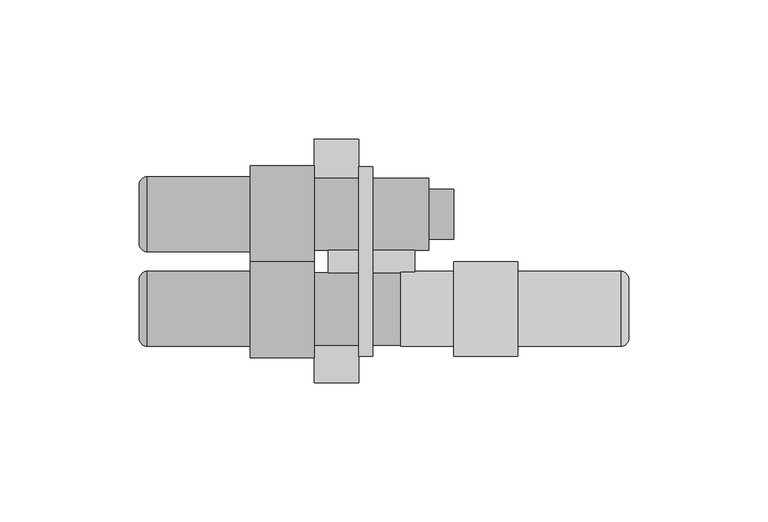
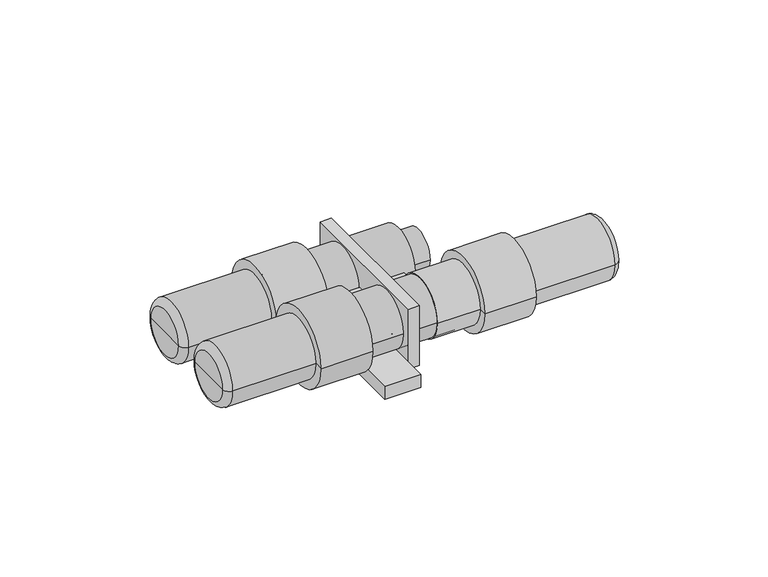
"""IFC4 building model written with IfcOpenShell, lengths in millimetres: cable carrier fitting geometry, DEVI EasyConnect EC-2 : DEVI EasyConnect EC-2_98300875."""

from ifc_helpers import new_model, si_unit, point, frame, frame_2d, origin, origin_2d, place, context, project, spatial, polyline, circle_curve, ellipse_curve, trimmed, segment, composite_curve, outline, extrude, source, transform, mapped, element, save
from ifc_brep_helpers import plane_surface, cylinder_surface, revolved_surface, advanced_brep


def cable_carrier_fitting_9c28b088(model_context):
    return source(origin(), model_context, "Body", "SolidModel", [
        extrude(outline(composite_curve([segment(trimmed(circle_curve(origin_2d(), 9.0), [point((9.0, 0.0))], [point((-9.0, 0.0))], False, "CARTESIAN"), True, "CONTINUOUS"), segment(trimmed(circle_curve(origin_2d(), 9.0), [point((-9.0, 0.0))], [point((9.0, 0.0))], False, "CARTESIAN"), True, "CONTINUOUS")], self_intersect=False)), frame((104.0, 0.0, 0.0), z_axis=(1.0, 0.0, 0.0), x_axis=(0.0, 1.0, 0.0)), (0.0, 0.0, 1.0), 9.0),
        advanced_brep(
        [(63.0, -13.0, -0.0348156), (63.0, 13.0, -0.0348156), (63.0, 7.2677823, -10.8134677), (63.0, 27.0, -10.8134677), (63.0, 27.0, -16.9651844), (63.0, 0.0, -16.9651844), (63.0, 0.0, -13.0348156), (104.0, 13.0, -0.0348156), (104.0, -13.0, -0.0348156), (79.0, 0.0, -13.0348156), (79.0, 7.2677823, -10.8134677), (79.0, 27.0, -10.8134677), (79.0, 27.0, -16.9651844), (79.0, 0.0, -16.9651844)],
        [
            (0, 1, circle_curve(frame((63.0, 0.0, -0.0348156), z_axis=(-1.0, 0.0, 0.0), x_axis=(0.0, -1.0, 0.0)), 13.0)),
            (1, 2, circle_curve(frame((63.0, 0.0, -0.0348156), z_axis=(-1.0, 0.0, 0.0), x_axis=(0.0, -1.0, 0.0)), 13.0)),
            (2, 3),
            (3, 4),
            (4, 5),
            (5, 6),
            (6, 0, circle_curve(frame((63.0, 0.0, -0.0348156), z_axis=(-1.0, 0.0, 0.0), x_axis=(0.0, -1.0, 0.0)), 13.0)),
            (7, 8, circle_curve(frame((104.0, 0.0, -0.0348156), z_axis=(1.0, 0.0, 0.0), x_axis=(0.0, -1.0, 0.0)), 13.0)),
            (8, 7, circle_curve(frame((104.0, 0.0, -0.0348156), z_axis=(1.0, 0.0, 0.0), x_axis=(0.0, -1.0, 0.0)), 13.0)),
            (8, 0),
            (6, 9),
            (9, 10, circle_curve(frame((79.0, 0.0, -0.0348156), z_axis=(1.0, 0.0, 0.0), x_axis=(0.0, -1.0, 0.0)), 13.0)),
            (10, 2),
            (1, 7),
            (11, 3),
            (10, 11),
            (4, 12),
            (12, 13),
            (13, 5),
            (13, 9),
            (12, 11),
        ],
        [
            plane_surface(frame((63.0, -13.0, -0.0348156), z_axis=(-1.0, 0.0, 0.0), x_axis=(0.0, 0.0, 1.0))),
            plane_surface(frame((104.0, -13.0, -0.0348156), z_axis=(1.0, 0.0, 0.0), x_axis=(0.0, 0.0, -1.0))),
            cylinder_surface(frame((104.0, 0.0, -0.0348156), z_axis=(-1.0, 0.0, 0.0), x_axis=(0.0, -1.0, 0.0)), 13.0),
            plane_surface(frame((63.0, -287.6301247, -10.8134677), z_axis=(0.0, 0.0, 1.0), x_axis=(0.0, -1.0, 0.0))),
            plane_surface(frame((63.0, -287.6301247, -16.9651844), z_axis=(0.0, 0.0, -1.0), x_axis=(0.0, 1.0, 0.0))),
            plane_surface(frame((63.0, 0.0, -10.8134677), z_axis=(0.0, -1.0, 0.0), x_axis=(0.0, 0.0, -1.0))),
            plane_surface(frame((79.0, 0.0, -10.8134677), z_axis=(1.0, 0.0, 0.0), x_axis=(0.0, 0.0, -1.0))),
            plane_surface(frame((79.0, 27.0, -10.8134677), z_axis=(0.0, 1.0, 0.0), x_axis=(0.0, 0.0, -1.0))),
        ],
        [
            (0, [[1, 2, 3, 4, 5, 6, 7]]),
            (1, [[8, 9]]),
            (2, [[-9, 10, -7, 11, 12, 13, -2, 14]]),
            (2, [[-1, -10, -8, -14]]),
            (3, [[15, -3, -13, 16]]),
            (4, [[17, 18, 19, -5]]),
            (5, [[-19, 20, -11, -6]]),
            (6, [[-18, 21, -16, -12, -20]]),
            (7, [[-15, -21, -17, -4]]),
        ],
    ),
        advanced_brep(
        [(63.0, -47.0, -0.0348156), (63.0, -21.0, -0.0348156), (63.0, -34.0, -13.0348156), (63.0, -34.0, -16.9651844), (63.0, -60.5, -16.9651844), (63.0, -60.5, -10.8134677), (63.0, -41.2677823, -10.8134677), (104.0, -21.0, -0.0348156), (104.0, -47.0, -0.0348156), (79.0, -41.2677823, -10.8134677), (79.0, -34.0, -13.0348156), (79.0, -60.5, -10.8134677), (79.0, -34.0, -16.9651844), (79.0, -60.5, -16.9651844)],
        [
            (0, 1, circle_curve(frame((63.0, -34.0, -0.0348156), z_axis=(-1.0, 0.0, 0.0), x_axis=(0.0, -1.0, 0.0)), 13.0)),
            (1, 2, circle_curve(frame((63.0, -34.0, -0.0348156), z_axis=(-1.0, 0.0, 0.0), x_axis=(0.0, -1.0, 0.0)), 13.0)),
            (2, 3),
            (3, 4),
            (4, 5),
            (5, 6),
            (6, 0, circle_curve(frame((63.0, -34.0, -0.0348156), z_axis=(-1.0, 0.0, 0.0), x_axis=(0.0, -1.0, 0.0)), 13.0)),
            (7, 8, circle_curve(frame((104.0, -34.0, -0.0348156), z_axis=(1.0, 0.0, 0.0), x_axis=(0.0, -1.0, 0.0)), 13.0)),
            (8, 7, circle_curve(frame((104.0, -34.0, -0.0348156), z_axis=(1.0, 0.0, 0.0), x_axis=(0.0, -1.0, 0.0)), 13.0)),
            (8, 0),
            (6, 9),
            (9, 10, circle_curve(frame((79.0, -34.0, -0.0348156), z_axis=(1.0, 0.0, 0.0), x_axis=(0.0, -1.0, 0.0)), 13.0)),
            (10, 2),
            (1, 7),
            (5, 11),
            (11, 9),
            (3, 12),
            (12, 13),
            (13, 4),
            (13, 11),
            (12, 10),
        ],
        [
            plane_surface(frame((63.0, -13.0, -0.0348156), z_axis=(-1.0, 0.0, 0.0), x_axis=(0.0, 0.0, 1.0))),
            plane_surface(frame((104.0, -13.0, -0.0348156), z_axis=(1.0, 0.0, 0.0), x_axis=(0.0, 0.0, -1.0))),
            cylinder_surface(frame((119.0, -34.0, -0.0348156), z_axis=(-1.0, 0.0, 0.0), x_axis=(0.0, -1.0, 0.0)), 13.0),
            plane_surface(frame((63.0, -287.6301247, -10.8134677), z_axis=(0.0, 0.0, 1.0), x_axis=(0.0, -1.0, 0.0))),
            plane_surface(frame((63.0, -287.6301247, -16.9651844), z_axis=(0.0, 0.0, -1.0), x_axis=(0.0, 1.0, 0.0))),
            plane_surface(frame((63.0, -60.5, -10.8134677), z_axis=(0.0, -1.0, 0.0), x_axis=(0.0, 0.0, -1.0))),
            plane_surface(frame((79.0, -60.5, -10.8134677), z_axis=(1.0, 0.0, 0.0), x_axis=(0.0, 0.0, -1.0))),
            plane_surface(frame((79.0, -34.0, -10.8134677), z_axis=(0.0, 1.0, 0.0), x_axis=(0.0, 0.0, -1.0))),
        ],
        [
            (0, [[1, 2, 3, 4, 5, 6, 7]]),
            (1, [[8, 9]]),
            (2, [[-9, 10, -7, 11, 12, 13, -2, 14]]),
            (2, [[-1, -10, -8, -14]]),
            (3, [[15, 16, -11, -6]]),
            (4, [[17, 18, 19, -4]]),
            (5, [[-15, -5, -19, 20]]),
            (6, [[-18, 21, -12, -16, -20]]),
            (7, [[-17, -3, -13, -21]]),
        ],
    ),
        extrude(outline(polyline([(99.0, -34.0), (68.0, -34.0), (68.0, 0.0), (99.0, 0.0), (99.0, -34.0)])), frame((0.0, 0.0, -1.4303687), z_axis=(0.0, 0.0, 1.0), x_axis=(1.0, 0.0, 0.0)), (0.0, 0.0, 1.0), 2.8607374),
        extrude(outline(composite_curve([segment(trimmed(circle_curve(frame_2d((-34.0, -0.0348156)), 9.0), [point((-25.0, -0.0348156))], [point((-43.0, -0.0348156))], False, "CARTESIAN"), True, "CONTINUOUS"), segment(trimmed(circle_curve(frame_2d((-34.0, -0.0348156)), 9.0), [point((-43.0, -0.0348156))], [point((-25.0, -0.0348156))], False, "CARTESIAN"), True, "CONTINUOUS")], self_intersect=False)), frame((104.0, 0.0, 0.0), z_axis=(1.0, 0.0, 0.0), x_axis=(0.0, 1.0, 0.0)), (0.0, 0.0, 1.0), 15.0),
        extrude(outline(polyline([(79.0, -51.0), (79.0, 17.0), (84.0, 17.0), (84.0, -51.0), (79.0, -51.0)])), frame((0.0, 0.0, -14.0348156), z_axis=(0.0, 0.0, 1.0), x_axis=(1.0, 0.0, 0.0)), (0.0, 0.0, 1.0), 28.0696313),
        advanced_brep(
        [(79.0, -41.0, 0.0), (79.0, -27.0, 0.0), (79.0, -34.0, 0.0), (63.0, -41.0, 0.0), (63.0, -27.0, 0.0), (63.0, -51.5, 0.0), (63.0, -16.5, 0.0), (40.0, -51.5, 0.0), (40.0, -16.5, 0.0), (40.0, -47.5, 0.0), (40.0, -20.5, 0.0), (3.0, -47.5, 0.0), (3.0, -20.5, 0.0), (0.0, -34.0, 0.0), (0.0, -23.5, 0.0), (0.0, -44.5, 0.0)],
        [
            (0, 1, circle_curve(frame((79.0, -34.0, 0.0), z_axis=(1.0, 0.0, 0.0), x_axis=(0.0, 1.0, 0.0)), 7.0)),
            (1, 2),
            (2, 0),
            (1, 0, circle_curve(frame((79.0, -34.0, 0.0), z_axis=(1.0, 0.0, 0.0), x_axis=(0.0, 1.0, 0.0)), 7.0)),
            (3, 4, circle_curve(frame((63.0, -34.0, 0.0), z_axis=(1.0, 0.0, 0.0), x_axis=(0.0, 1.0, 0.0)), 7.0)),
            (4, 1),
            (0, 3),
            (4, 3, circle_curve(frame((63.0, -34.0, 0.0), z_axis=(1.0, 0.0, 0.0), x_axis=(0.0, 1.0, 0.0)), 7.0)),
            (5, 6, circle_curve(frame((63.0, -34.0, 0.0), z_axis=(1.0, 0.0, 0.0), x_axis=(0.0, 1.0, 0.0)), 17.5)),
            (6, 4),
            (3, 5),
            (6, 5, circle_curve(frame((63.0, -34.0, 0.0), z_axis=(1.0, 0.0, 0.0), x_axis=(0.0, 1.0, 0.0)), 17.5)),
            (7, 8, circle_curve(frame((40.0, -34.0, 0.0), z_axis=(1.0, 0.0, 0.0), x_axis=(0.0, 1.0, 0.0)), 17.5)),
            (8, 6),
            (5, 7),
            (8, 7, circle_curve(frame((40.0, -34.0, 0.0), z_axis=(1.0, 0.0, 0.0), x_axis=(0.0, 1.0, 0.0)), 17.5)),
            (9, 10, circle_curve(frame((40.0, -34.0, 0.0), z_axis=(1.0, 0.0, 0.0), x_axis=(0.0, 1.0, 0.0)), 13.5)),
            (10, 8),
            (7, 9),
            (10, 9, circle_curve(frame((40.0, -34.0, 0.0), z_axis=(1.0, 0.0, 0.0), x_axis=(0.0, 1.0, 0.0)), 13.5)),
            (11, 12, circle_curve(frame((3.0, -34.0, 0.0), z_axis=(1.0, 0.0, 0.0), x_axis=(0.0, 1.0, 0.0)), 13.5)),
            (12, 10),
            (9, 11),
            (12, 11, circle_curve(frame((3.0, -34.0, 0.0), z_axis=(1.0, 0.0, 0.0), x_axis=(0.0, 1.0, 0.0)), 13.5)),
            (13, 14),
            (14, 15, circle_curve(frame((0.0, -34.0, 0.0), z_axis=(-1.0, 0.0, 0.0), x_axis=(0.0, 1.0, 0.0)), 10.5)),
            (15, 13),
            (15, 14, circle_curve(frame((0.0, -34.0, 0.0), z_axis=(-1.0, 0.0, 0.0), x_axis=(0.0, 1.0, 0.0)), 10.5)),
            (14, 12, circle_curve(frame((3.0, -23.5, 0.0), z_axis=(0.0, 0.0, -1.0), x_axis=(1.0, 0.0, 0.0)), 3.0)),
            (11, 15, circle_curve(frame((3.0, -44.5, 0.0), z_axis=(0.0, 0.0, -1.0), x_axis=(1.0, 0.0, 0.0)), 3.0)),
        ],
        [
            plane_surface(frame((79.0, -34.0, 0.0), z_axis=(1.0, 0.0, 0.0), x_axis=(0.0, 1.0, 0.0))),
            cylinder_surface(frame((-25.0, -34.0, 0.0), z_axis=(-1.0, 0.0, 0.0), x_axis=(0.0, 1.0, 0.0)), 7.0),
            plane_surface(frame((63.0, -34.0, 0.0), z_axis=(1.0, 0.0, 0.0), x_axis=(0.0, 1.0, 0.0))),
            cylinder_surface(frame((-25.0, -34.0, 0.0), z_axis=(-1.0, 0.0, 0.0), x_axis=(0.0, 1.0, 0.0)), 17.5),
            plane_surface(frame((40.0, -34.0, 0.0), z_axis=(-1.0, 0.0, 0.0), x_axis=(0.0, 1.0, 0.0))),
            cylinder_surface(frame((-25.0, -34.0, 0.0), z_axis=(-1.0, 0.0, 0.0), x_axis=(0.0, 1.0, 0.0)), 13.5),
            plane_surface(frame((0.0, -34.0, 0.0), z_axis=(-1.0, 0.0, 0.0), x_axis=(0.0, 1.0, 0.0))),
            revolved_surface(trimmed(ellipse_curve(frame((3.0, -23.5, 0.0), z_axis=(0.0, 0.0, 1.0), x_axis=(1.0, 0.0, 0.0)), 3.0, 3.0), [point((3.0, -20.5, 0.0))], [point((0.0, -23.5, 0.0))], True, "CARTESIAN"), (-25.0, -34.0, 0.0), (-1.0, 0.0, 0.0)),
        ],
        [
            (0, [[1, 2, 3]]),
            (0, [[4, -3, -2]]),
            (1, [[5, 6, -1, 7]]),
            (1, [[8, -7, -4, -6]]),
            (2, [[9, 10, -5, 11]]),
            (2, [[12, -11, -8, -10]]),
            (3, [[13, 14, -9, 15]]),
            (3, [[16, -15, -12, -14]]),
            (4, [[17, 18, -13, 19]]),
            (4, [[20, -19, -16, -18]]),
            (5, [[21, 22, -17, 23]]),
            (5, [[24, -23, -20, -22]]),
            (6, [[25, 26, 27]]),
            (6, [[-27, 28, -25]]),
            (7, [[-26, 29, -21, 30]]),
            (7, [[-28, -30, -24, -29]]),
        ],
    ),
        advanced_brep(
        [(94.0, -20.5, 0.0), (94.0, -47.5, 0.0), (94.0, -34.0, 0.0), (113.0, -20.5, 0.0), (113.0, -47.5, 0.0), (113.0, -17.0, 0.0), (113.0, -51.0, 0.0), (136.0, -17.0, 0.0), (136.0, -51.0, 0.0), (136.0, -20.5, 0.0), (136.0, -47.5, 0.0), (173.0, -20.5, 0.0), (173.0, -47.5, 0.0), (176.0, -34.0, 0.0), (176.0, -44.5, 0.0), (176.0, -23.5, 0.0)],
        [
            (0, 1, circle_curve(frame((94.0, -34.0, 0.0), z_axis=(-1.0, 0.0, 0.0), x_axis=(0.0, -1.0, 0.0)), 13.5)),
            (1, 2),
            (2, 0),
            (1, 0, circle_curve(frame((94.0, -34.0, 0.0), z_axis=(-1.0, 0.0, 0.0), x_axis=(0.0, -1.0, 0.0)), 13.5)),
            (3, 4, circle_curve(frame((113.0, -34.0, 0.0), z_axis=(-1.0, 0.0, 0.0), x_axis=(0.0, -1.0, 0.0)), 13.5)),
            (4, 1),
            (0, 3),
            (4, 3, circle_curve(frame((113.0, -34.0, 0.0), z_axis=(-1.0, 0.0, 0.0), x_axis=(0.0, -1.0, 0.0)), 13.5)),
            (5, 6, circle_curve(frame((113.0, -34.0, 0.0), z_axis=(-1.0, 0.0, 0.0), x_axis=(0.0, -1.0, 0.0)), 17.0)),
            (6, 4),
            (3, 5),
            (6, 5, circle_curve(frame((113.0, -34.0, 0.0), z_axis=(-1.0, 0.0, 0.0), x_axis=(0.0, -1.0, 0.0)), 17.0)),
            (7, 8, circle_curve(frame((136.0, -34.0, 0.0), z_axis=(-1.0, 0.0, 0.0), x_axis=(0.0, -1.0, 0.0)), 17.0)),
            (8, 6),
            (5, 7),
            (8, 7, circle_curve(frame((136.0, -34.0, 0.0), z_axis=(-1.0, 0.0, 0.0), x_axis=(0.0, -1.0, 0.0)), 17.0)),
            (9, 10, circle_curve(frame((136.0, -34.0, 0.0), z_axis=(-1.0, 0.0, 0.0), x_axis=(0.0, -1.0, 0.0)), 13.5)),
            (10, 8),
            (7, 9),
            (10, 9, circle_curve(frame((136.0, -34.0, 0.0), z_axis=(-1.0, 0.0, 0.0), x_axis=(0.0, -1.0, 0.0)), 13.5)),
            (11, 12, circle_curve(frame((173.0, -34.0, 0.0), z_axis=(-1.0, 0.0, 0.0), x_axis=(0.0, -1.0, 0.0)), 13.5)),
            (12, 10),
            (9, 11),
            (12, 11, circle_curve(frame((173.0, -34.0, 0.0), z_axis=(-1.0, 0.0, 0.0), x_axis=(0.0, -1.0, 0.0)), 13.5)),
            (13, 14),
            (14, 15, circle_curve(frame((176.0, -34.0, 0.0), z_axis=(1.0, 0.0, 0.0), x_axis=(0.0, -1.0, 0.0)), 10.5)),
            (15, 13),
            (15, 14, circle_curve(frame((176.0, -34.0, 0.0), z_axis=(1.0, 0.0, 0.0), x_axis=(0.0, -1.0, 0.0)), 10.5)),
            (14, 12, circle_curve(frame((173.0, -44.5, 0.0), z_axis=(0.0, 0.0, -1.0), x_axis=(-1.0, 0.0, 0.0)), 3.0)),
            (11, 15, circle_curve(frame((173.0, -23.5, 0.0), z_axis=(0.0, 0.0, -1.0), x_axis=(-1.0, 0.0, 0.0)), 3.0)),
        ],
        [
            plane_surface(frame((94.0, -34.0, 0.0), z_axis=(-1.0, 0.0, 0.0), x_axis=(0.0, -1.0, 0.0))),
            cylinder_surface(frame((201.0, -34.0, 0.0), z_axis=(1.0, 0.0, 0.0), x_axis=(0.0, -1.0, 0.0)), 13.5),
            plane_surface(frame((113.0, -34.0, 0.0), z_axis=(-1.0, 0.0, 0.0), x_axis=(0.0, -1.0, 0.0))),
            cylinder_surface(frame((201.0, -34.0, 0.0), z_axis=(1.0, 0.0, 0.0), x_axis=(0.0, -1.0, 0.0)), 17.0),
            plane_surface(frame((136.0, -34.0, 0.0), z_axis=(1.0, 0.0, 0.0), x_axis=(0.0, -1.0, 0.0))),
            plane_surface(frame((176.0, -34.0, 0.0), z_axis=(1.0, 0.0, 0.0), x_axis=(0.0, -1.0, 0.0))),
            revolved_surface(trimmed(ellipse_curve(frame((173.0, -44.5, 0.0), z_axis=(0.0, 0.0, 1.0), x_axis=(-1.0, 0.0, 0.0)), 3.0, 3.0), [point((173.0, -47.5, 0.0))], [point((176.0, -44.5, 0.0))], True, "CARTESIAN"), (201.0, -34.0, 0.0), (1.0, 0.0, 0.0)),
        ],
        [
            (0, [[1, 2, 3]]),
            (0, [[4, -3, -2]]),
            (1, [[5, 6, -1, 7]]),
            (1, [[8, -7, -4, -6]]),
            (2, [[9, 10, -5, 11]]),
            (2, [[12, -11, -8, -10]]),
            (3, [[13, 14, -9, 15]]),
            (3, [[16, -15, -12, -14]]),
            (4, [[17, 18, -13, 19]]),
            (4, [[20, -19, -16, -18]]),
            (1, [[21, 22, -17, 23]]),
            (1, [[24, -23, -20, -22]]),
            (5, [[25, 26, 27]]),
            (5, [[-27, 28, -25]]),
            (6, [[-26, 29, -21, 30]]),
            (6, [[-28, -30, -24, -29]]),
        ],
    ),
        advanced_brep(
        [(79.0, -7.0, 0.0), (79.0, 7.0, 0.0), (79.0, 0.0, 0.0), (63.0, -7.0, 0.0), (63.0, 7.0, 0.0), (63.0, -17.5, 0.0), (63.0, 17.5, 0.0), (40.0, -17.5, 0.0), (40.0, 17.5, 0.0), (40.0, -13.5, 0.0), (40.0, 13.5, 0.0), (3.0, -13.5, 0.0), (3.0, 13.5, 0.0), (0.0, 0.0, 0.0), (0.0, 10.5, 0.0), (0.0, -10.5, 0.0)],
        [
            (0, 1, circle_curve(frame((79.0, 0.0, 0.0), z_axis=(1.0, 0.0, 0.0), x_axis=(0.0, 1.0, 0.0)), 7.0)),
            (1, 2),
            (2, 0),
            (1, 0, circle_curve(frame((79.0, 0.0, 0.0), z_axis=(1.0, 0.0, 0.0), x_axis=(0.0, 1.0, 0.0)), 7.0)),
            (3, 4, circle_curve(frame((63.0, 0.0, 0.0), z_axis=(1.0, 0.0, 0.0), x_axis=(0.0, 1.0, 0.0)), 7.0)),
            (4, 1),
            (0, 3),
            (4, 3, circle_curve(frame((63.0, 0.0, 0.0), z_axis=(1.0, 0.0, 0.0), x_axis=(0.0, 1.0, 0.0)), 7.0)),
            (5, 6, circle_curve(frame((63.0, 0.0, 0.0), z_axis=(1.0, 0.0, 0.0), x_axis=(0.0, 1.0, 0.0)), 17.5)),
            (6, 4),
            (3, 5),
            (6, 5, circle_curve(frame((63.0, 0.0, 0.0), z_axis=(1.0, 0.0, 0.0), x_axis=(0.0, 1.0, 0.0)), 17.5)),
            (7, 8, circle_curve(frame((40.0, 0.0, 0.0), z_axis=(1.0, 0.0, 0.0), x_axis=(0.0, 1.0, 0.0)), 17.5)),
            (8, 6),
            (5, 7),
            (8, 7, circle_curve(frame((40.0, 0.0, 0.0), z_axis=(1.0, 0.0, 0.0), x_axis=(0.0, 1.0, 0.0)), 17.5)),
            (9, 10, circle_curve(frame((40.0, 0.0, 0.0), z_axis=(1.0, 0.0, 0.0), x_axis=(0.0, 1.0, 0.0)), 13.5)),
            (10, 8),
            (7, 9),
            (10, 9, circle_curve(frame((40.0, 0.0, 0.0), z_axis=(1.0, 0.0, 0.0), x_axis=(0.0, 1.0, 0.0)), 13.5)),
            (11, 12, circle_curve(frame((3.0, 0.0, 0.0), z_axis=(1.0, 0.0, 0.0), x_axis=(0.0, 1.0, 0.0)), 13.5)),
            (12, 10),
            (9, 11),
            (12, 11, circle_curve(frame((3.0, 0.0, 0.0), z_axis=(1.0, 0.0, 0.0), x_axis=(0.0, 1.0, 0.0)), 13.5)),
            (13, 14),
            (14, 15, circle_curve(frame((0.0, 0.0, 0.0), z_axis=(-1.0, 0.0, 0.0), x_axis=(0.0, 1.0, 0.0)), 10.5)),
            (15, 13),
            (15, 14, circle_curve(frame((0.0, 0.0, 0.0), z_axis=(-1.0, 0.0, 0.0), x_axis=(0.0, 1.0, 0.0)), 10.5)),
            (14, 12, circle_curve(frame((3.0, 10.5, 0.0), z_axis=(0.0, 0.0, -1.0), x_axis=(1.0, 0.0, 0.0)), 3.0)),
            (11, 15, circle_curve(frame((3.0, -10.5, 0.0), z_axis=(0.0, 0.0, -1.0), x_axis=(1.0, 0.0, 0.0)), 3.0)),
        ],
        [
            plane_surface(frame((79.0, 0.0, 0.0), z_axis=(1.0, 0.0, 0.0), x_axis=(0.0, 1.0, 0.0))),
            cylinder_surface(frame((-25.0, 0.0, 0.0), z_axis=(-1.0, 0.0, 0.0), x_axis=(0.0, 1.0, 0.0)), 7.0),
            plane_surface(frame((63.0, 0.0, 0.0), z_axis=(1.0, 0.0, 0.0), x_axis=(0.0, 1.0, 0.0))),
            cylinder_surface(frame((-25.0, 0.0, 0.0), z_axis=(-1.0, 0.0, 0.0), x_axis=(0.0, 1.0, 0.0)), 17.5),
            plane_surface(frame((40.0, 0.0, 0.0), z_axis=(-1.0, 0.0, 0.0), x_axis=(0.0, 1.0, 0.0))),
            cylinder_surface(frame((-25.0, 0.0, 0.0), z_axis=(-1.0, 0.0, 0.0), x_axis=(0.0, 1.0, 0.0)), 13.5),
            plane_surface(frame((0.0, 0.0, 0.0), z_axis=(-1.0, 0.0, 0.0), x_axis=(0.0, 1.0, 0.0))),
            revolved_surface(trimmed(ellipse_curve(frame((3.0, 10.5, 0.0), z_axis=(0.0, 0.0, 1.0), x_axis=(1.0, 0.0, 0.0)), 3.0, 3.0), [point((3.0, 13.5, 0.0))], [point((0.0, 10.5, 0.0))], True, "CARTESIAN"), (-25.0, 0.0, 0.0), (-1.0, 0.0, 0.0)),
        ],
        [
            (0, [[1, 2, 3]]),
            (0, [[4, -3, -2]]),
            (1, [[5, 6, -1, 7]]),
            (1, [[8, -7, -4, -6]]),
            (2, [[9, 10, -5, 11]]),
            (2, [[12, -11, -8, -10]]),
            (3, [[13, 14, -9, 15]]),
            (3, [[16, -15, -12, -14]]),
            (4, [[17, 18, -13, 19]]),
            (4, [[20, -19, -16, -18]]),
            (5, [[21, 22, -17, 23]]),
            (5, [[24, -23, -20, -22]]),
            (6, [[25, 26, 27]]),
            (6, [[-27, 28, -25]]),
            (7, [[-26, 29, -21, 30]]),
            (7, [[-28, -30, -24, -29]]),
        ],
    ),
    ])


if __name__ == "__main__":
    model = new_model("IFC4")
    model_context = context("Model", 3, world=origin())
    ifc_project = project(units=[si_unit("LENGTHUNIT", "METRE", prefix="MILLI")], contexts=[model_context])
    site = spatial("IfcSite", under=ifc_project)
    building = spatial("IfcBuilding", under=site)
    placement = place(None, origin())
    cable_carrier_fitting_shape = cable_carrier_fitting_9c28b088(model_context)
    element("IfcCableCarrierFitting", 1, ObjectType="DEVI EasyConnect EC-2 : DEVI EasyConnect EC-2_98300875", at=placement, inside=building, context=model_context, shape_type="MappedRepresentation", body=[
        mapped(cable_carrier_fitting_shape, transform((0.0, 0.0, 0.0), x_axis=(1.0, 0.0, 0.0), y_axis=(0.0, 1.0, 0.0), z_axis=(0.0, 0.0, 1.0))),
    ])
    save(model, "model.ifc")
